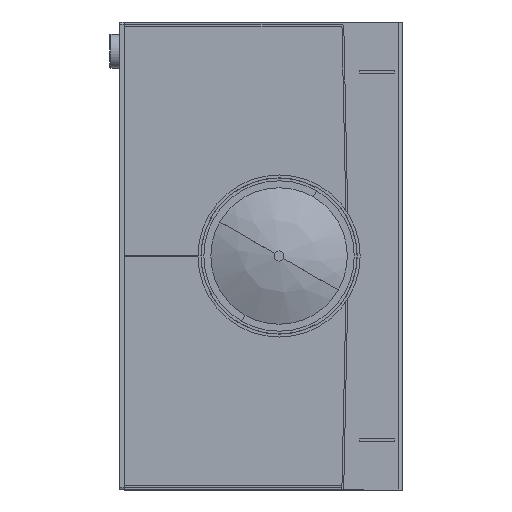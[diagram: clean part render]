
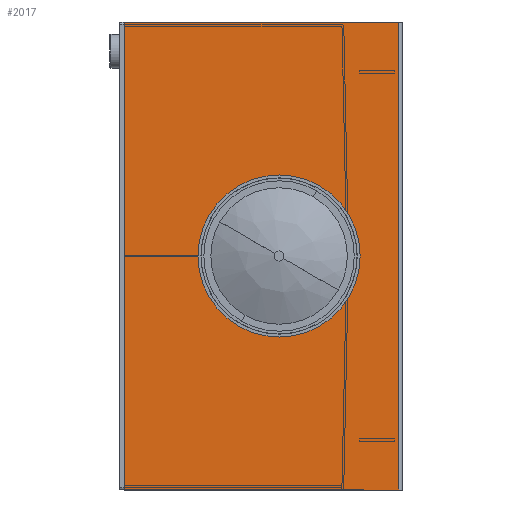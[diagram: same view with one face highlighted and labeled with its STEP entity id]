
A CAD part, left-side view. The second image highlights one B-rep face of the part: STEP entity #2017.
In plain terms, the highlighted planar face has unit normal (-1, 0, 0) as drawn and (1, 0, 0) by its records, which use the part's own axes.
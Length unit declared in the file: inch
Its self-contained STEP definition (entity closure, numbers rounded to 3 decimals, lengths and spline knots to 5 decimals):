
#389 = DIRECTION ( 'NONE',  ( -1., 0., 0. ) ) ;
#411 = CARTESIAN_POINT ( 'NONE',  ( 0., 114.5448, -7. ) ) ;
#767 = CARTESIAN_POINT ( 'NONE',  ( 0., 102.2853, 24. ) ) ;
#839 = EDGE_CURVE ( 'NONE', #8284, #7918, #5257, .T. ) ;
#939 = VERTEX_POINT ( 'NONE', #7114 ) ;
#1090 = CARTESIAN_POINT ( 'NONE',  ( 0., 130.4103, 24. ) ) ;
#1175 = AXIS2_PLACEMENT_3D ( 'NONE', #1293, #6185, #2023 ) ;
#1184 = CARTESIAN_POINT ( 'NONE',  ( 0., 114.5448, 0. ) ) ;
#1293 = CARTESIAN_POINT ( 'NONE',  ( 0., 114.5448, 0. ) ) ;
#1465 = ORIENTED_EDGE ( 'NONE', *, *, #839, .T. ) ;
#1491 = DIRECTION ( 'NONE',  ( 0., 0., -1. ) ) ;
#1833 = DIRECTION ( 'NONE',  ( 0., 0., 1. ) ) ;
#1889 = AXIS2_PLACEMENT_3D ( 'NONE', #1184, #6075, #1905 ) ;
#1905 = DIRECTION ( 'NONE',  ( 0., 0., -1. ) ) ;
#1923 = LINE ( 'NONE', #3605, #7287 ) ;
#2017 = ADVANCED_FACE ( 'NONE', ( #6401, #8077 ), #8106, .F. ) ;
#2023 = DIRECTION ( 'NONE',  ( 0., 0., -1. ) ) ;
#2215 = AXIS2_PLACEMENT_3D ( 'NONE', #3907, #389, #5314 ) ;
#2529 = CARTESIAN_POINT ( 'NONE',  ( 0., 101.9103, -24. ) ) ;
#2607 = VERTEX_POINT ( 'NONE', #411 ) ;
#2674 = CARTESIAN_POINT ( 'NONE',  ( 0., 102.2853, 24. ) ) ;
#2716 = VERTEX_POINT ( 'NONE', #4997 ) ;
#3605 = CARTESIAN_POINT ( 'NONE',  ( 0., 101.9103, 24. ) ) ;
#3686 = VERTEX_POINT ( 'NONE', #2674 ) ;
#3741 = EDGE_LOOP ( 'NONE', ( #6118, #1465, #4598, #7555 ) ) ;
#3907 = CARTESIAN_POINT ( 'NONE',  ( 0., 0., 0. ) ) ;
#4026 = CIRCLE ( 'NONE', #1175, 7. ) ;
#4598 = ORIENTED_EDGE ( 'NONE', *, *, #7814, .T. ) ;
#4790 = VECTOR ( 'NONE', #1833, 39.37008 ) ;
#4793 = ORIENTED_EDGE ( 'NONE', *, *, #7165, .F. ) ;
#4997 = CARTESIAN_POINT ( 'NONE',  ( 0., 114.5448, 7. ) ) ;
#5178 = CARTESIAN_POINT ( 'NONE',  ( 0., 102.2853, -24. ) ) ;
#5257 = LINE ( 'NONE', #2529, #8768 ) ;
#5314 = DIRECTION ( 'NONE',  ( 0., 0., 1. ) ) ;
#5621 = VECTOR ( 'NONE', #1491, 39.37008 ) ;
#6075 = DIRECTION ( 'NONE',  ( 1., 0., 0. ) ) ;
#6118 = ORIENTED_EDGE ( 'NONE', *, *, #7430, .T. ) ;
#6181 = CIRCLE ( 'NONE', #1889, 7. ) ;
#6185 = DIRECTION ( 'NONE',  ( 1., 0., 0. ) ) ;
#6312 = EDGE_LOOP ( 'NONE', ( #4793, #6790 ) ) ;
#6401 = FACE_BOUND ( 'NONE', #6312, .T. ) ;
#6436 = DIRECTION ( 'NONE',  ( 0., 1., 0. ) ) ;
#6651 = LINE ( 'NONE', #1090, #4790 ) ;
#6790 = ORIENTED_EDGE ( 'NONE', *, *, #7894, .F. ) ;
#7114 = CARTESIAN_POINT ( 'NONE',  ( 0., 130.4103, 24. ) ) ;
#7165 = EDGE_CURVE ( 'NONE', #2607, #2716, #6181, .T. ) ;
#7287 = VECTOR ( 'NONE', #7792, 39.37008 ) ;
#7430 = EDGE_CURVE ( 'NONE', #3686, #8284, #7948, .T. ) ;
#7474 = EDGE_CURVE ( 'NONE', #939, #3686, #1923, .T. ) ;
#7555 = ORIENTED_EDGE ( 'NONE', *, *, #7474, .T. ) ;
#7792 = DIRECTION ( 'NONE',  ( 0., -1., 0. ) ) ;
#7814 = EDGE_CURVE ( 'NONE', #7918, #939, #6651, .T. ) ;
#7894 = EDGE_CURVE ( 'NONE', #2716, #2607, #4026, .T. ) ;
#7918 = VERTEX_POINT ( 'NONE', #8338 ) ;
#7948 = LINE ( 'NONE', #767, #5621 ) ;
#8077 = FACE_OUTER_BOUND ( 'NONE', #3741, .T. ) ;
#8106 = PLANE ( 'NONE',  #2215 ) ;
#8284 = VERTEX_POINT ( 'NONE', #5178 ) ;
#8338 = CARTESIAN_POINT ( 'NONE',  ( 0., 130.4103, -24. ) ) ;
#8768 = VECTOR ( 'NONE', #6436, 39.37008 ) ;
